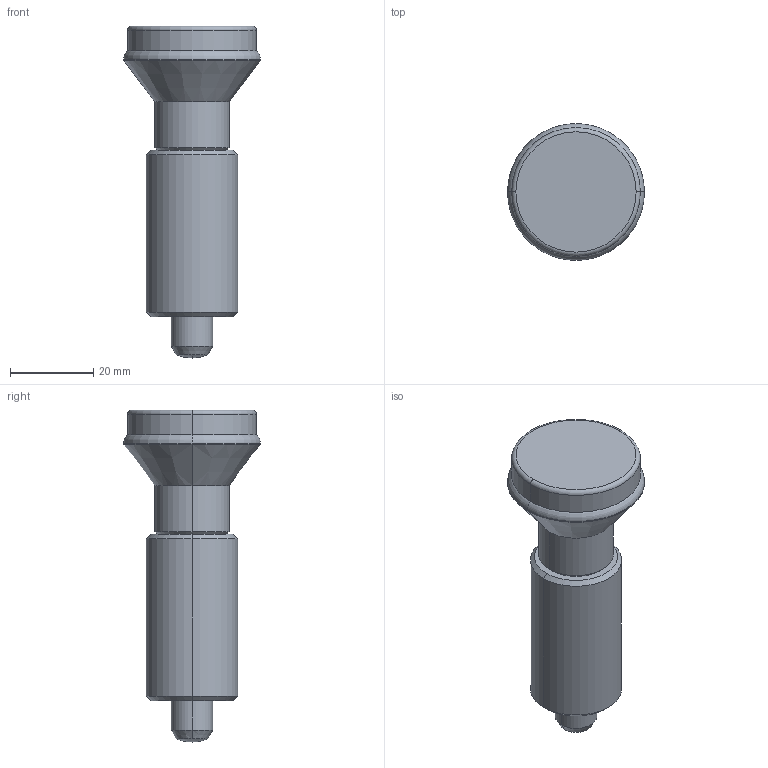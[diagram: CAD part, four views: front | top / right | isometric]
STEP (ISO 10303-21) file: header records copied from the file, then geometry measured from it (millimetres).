
FILE_DESCRIPTION (( 'STEP AP203' ), '1' );
FILE_NAME ('wdx20.STEP', '2021-10-26T06:38:08', ( '' ), ( '' ), 'SwSTEP 2.0', 'SolidWorks 2020', '' );
FILE_SCHEMA (( 'CONFIG_CONTROL_DESIGN' ));
Length unit declared in the file: millimetre
Products named in the file (1): wdx20
Bounding box: 33 x 33 x 80 mm (x, y, z)
Volume: 30434.3 mm3; surface area: 6723.2 mm2
Topology: 1 solids, 1 shells, 29 faces, 58 edges, 33 vertices
Faces by surface type: cone 10, cylinder 10, torus 4, plane 3, sphere 2
Entity records: 831 total; most frequent: DIRECTION 156, CARTESIAN_POINT 121, ORIENTED_EDGE 116, AXIS2_PLACEMENT_3D 68, EDGE_CURVE 58, CIRCLE 38, VERTEX_POINT 33, EDGE_LOOP 31
